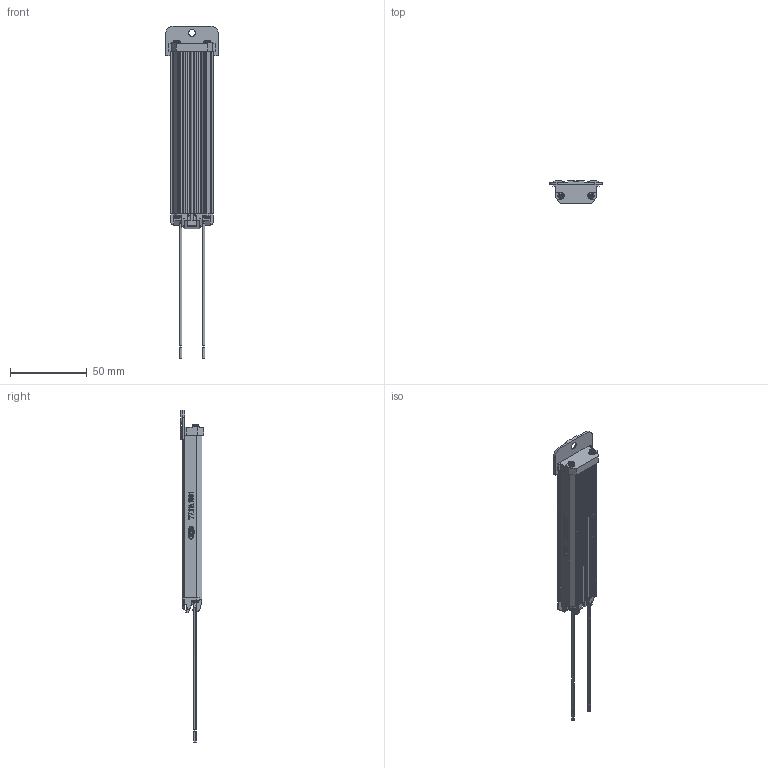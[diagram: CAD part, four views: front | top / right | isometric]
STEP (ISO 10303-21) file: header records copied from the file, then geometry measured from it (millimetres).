
FILE_DESCRIPTION(('CAx-IF Rec.Pracs.---Model Styling and Organization---1.2---2011-12-15','CAx-IF Rec.Pracs.---Geometric and Assembly Validation Properties---4.1---2014-06-16','CAx-IF Rec.Pracs.---PMI Polyline Presentation---2.0---2013-05-24'),'2;1');
FILE_NAME('020Y501Y0A.stp','2017-05-10T12:18:03+02:00',(''),(''),'STEP Interface 4.0 Sp1 by CT CoreTechnologie','3D_Evolution4.0 Sp1 by CT CoreTechnologie','');
FILE_SCHEMA(('AP203_CONFIGURATION_CONTROLLED_3D_DESIGN_OF_MECHANICAL_PARTS_AND_ASSEMBLIES_MIM_LF'));
Length unit declared in the file: metre
Products named in the file (9): 020-501-0A; 020-508-04; 01V-N52-04; 01Z-M00-05; 020-500-05; 020-502-03; 01V-Q0F-01; 020-504-01; 020-503-03
Assembly tree (12 placements, depth 3):
  020-501-0A
    020-508-04
      01V-N52-04
      01Z-M00-05  x2
    020-500-05
    020-502-03
    01V-Q0F-01  x4
    020-504-01
    020-503-03
Bounding box: 34.4 x 15.15 x 216.49 mm (x, y, z)
Volume: 22203.7 mm3; surface area: 28920.2 mm2
Topology: 11 solids, 11 shells, 668 faces, 1775 edges, 1164 vertices
Faces by surface type: plane 456, cylinder 153, bspline 59
Entity records: 21598 total; most frequent: CARTESIAN_POINT 4018, ORIENTED_EDGE 2818, DIRECTION 2598, EDGE_CURVE 1409, VECTOR 1162, LINE 1162, VERTEX_POINT 926, AXIS2_PLACEMENT_3D 718
